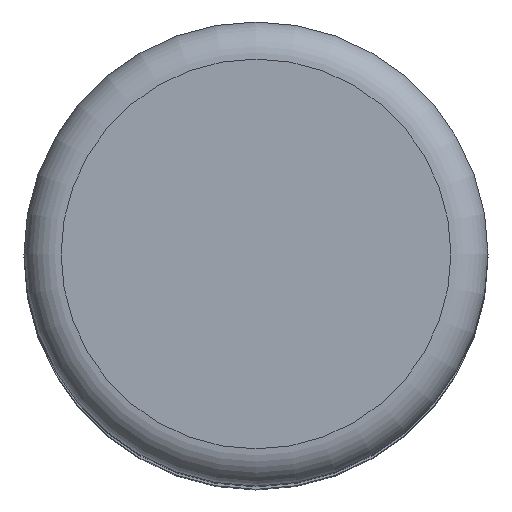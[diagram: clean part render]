
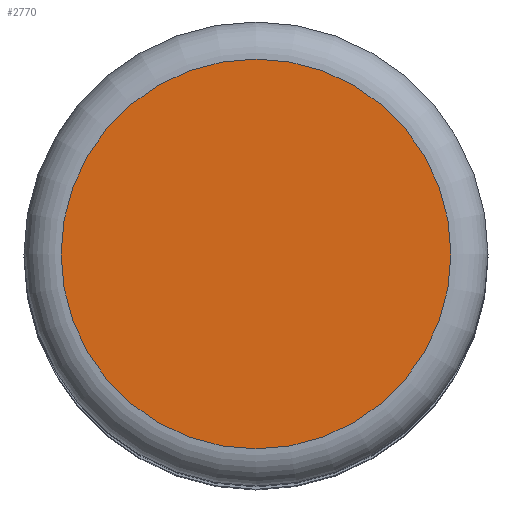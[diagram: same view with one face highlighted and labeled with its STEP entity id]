
A CAD part, top view. The second image highlights one B-rep face of the part: STEP entity #2770.
In plain terms, the highlighted planar face has unit normal (0, 0, 1).
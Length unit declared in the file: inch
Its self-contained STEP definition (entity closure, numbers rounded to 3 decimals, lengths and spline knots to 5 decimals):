
#149=PLANE('',#2958);
#297=FACE_OUTER_BOUND('',#452,.T.);
#452=EDGE_LOOP('',(#2580));
#681=CIRCLE('',#2955,0.105);
#1337=VERTEX_POINT('',#6251);
#1751=EDGE_CURVE('',#1337,#1337,#681,.T.);
#2580=ORIENTED_EDGE('',*,*,#1751,.F.);
#2770=ADVANCED_FACE('',(#297),#149,.T.);
#2955=AXIS2_PLACEMENT_3D('',#6253,#3471,#3472);
#2958=AXIS2_PLACEMENT_3D('',#6258,#3478,#3479);
#3471=DIRECTION('center_axis',(0.,0.,-1.));
#3472=DIRECTION('ref_axis',(-1.,0.,0.));
#3478=DIRECTION('center_axis',(0.,0.,1.));
#3479=DIRECTION('ref_axis',(1.,0.,0.));
#6251=CARTESIAN_POINT('',(0.105,0.,0.625));
#6253=CARTESIAN_POINT('Origin',(0.,0.,0.625));
#6258=CARTESIAN_POINT('Origin',(0.,0.,
0.625));
